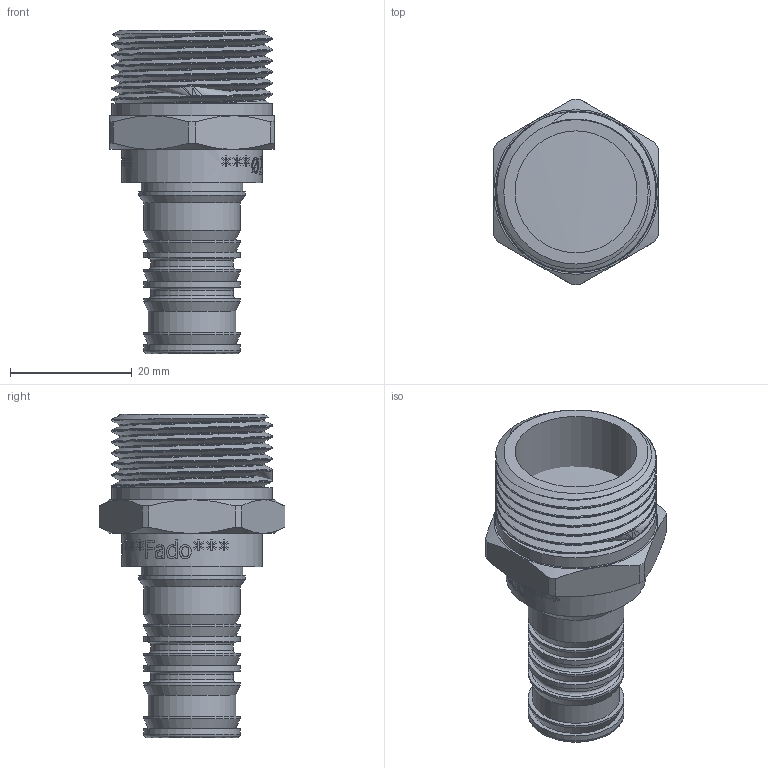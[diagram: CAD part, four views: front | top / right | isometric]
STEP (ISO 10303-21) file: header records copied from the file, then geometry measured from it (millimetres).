
FILE_DESCRIPTION(/* description */ (''),/* implementation_level */ '2;1');
FILE_NAME(/* name */ 'C:\Users\Doom\Desktop\Фадотех\Пресс\HDM24-1 31.03.2020\HDM24-1 31.03.2020.stp',/* time_stamp */ '2022-08-12T10:44:50+03:00',/* author */ ('Doom'),/* organization */ (''),/* preprocessor_version */ 'ST-DEVELOPER v18',/* originating_system */ 'Autodesk Inventor 2020',/* authorisation */ '');
FILE_SCHEMA (('AUTOMOTIVE_DESIGN { 1 0 10303 214 3 1 1 }'));
Length unit declared in the file: millimetre
Products named in the file (1): 16 Model 18.12.2019
Bounding box: 27 x 30.5 x 53 mm (x, y, z)
Volume: 8985.6 mm3; surface area: 9861.9 mm2
Topology: 2 solids, 2 shells, 508 faces, 1396 edges, 937 vertices
Faces by surface type: bspline 314, plane 101, cylinder 66, cone 22, torus 5
Full cylindrical faces by diameter (mm): 11.5 x1, 13.5 x2, 14.3 x1, 15.5 x1, 15.8 x8, 16.6 x1, 17.5 x1, 20 x1, 23 x1, 23.71 x2, 26.4 x7
Entity records: 25427 total; most frequent: CARTESIAN_POINT 14459, ORIENTED_EDGE 2792, EDGE_CURVE 1396, DIRECTION 1349, VERTEX_POINT 937, B_SPLINE_CURVE_WITH_KNOTS 648, EDGE_LOOP 557, FACE_OUTER_BOUND 508
